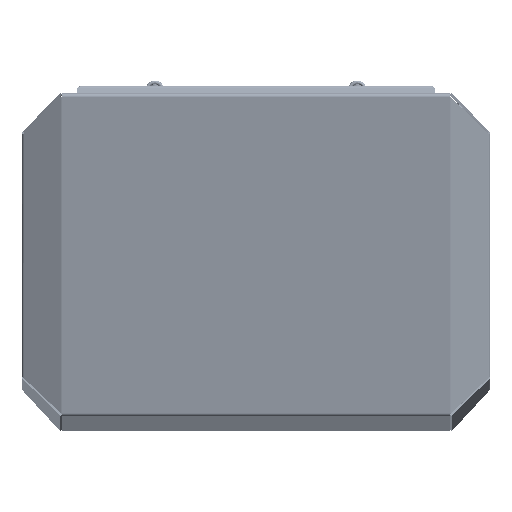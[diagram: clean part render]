
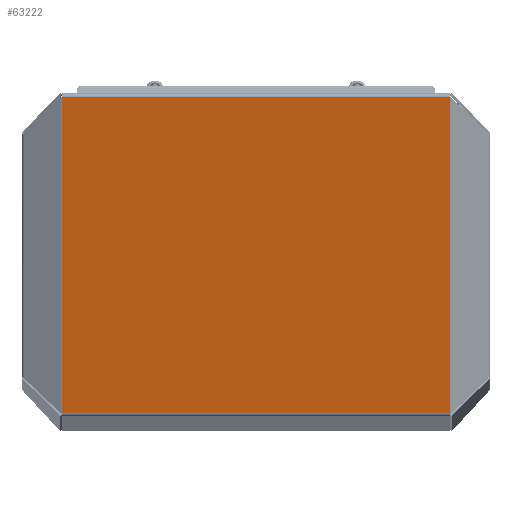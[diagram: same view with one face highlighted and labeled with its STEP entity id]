
A CAD part, top view. The second image highlights one B-rep face of the part: STEP entity #63222.
In plain terms, the highlighted planar face has unit normal (0, -0.194, 0.981) as drawn and (-0.194, 0, 0.981) by its records, which use the part's own axes.
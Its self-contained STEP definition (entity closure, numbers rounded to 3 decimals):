
#9411=ORIENTED_EDGE('',*,*,#26564,.F.);
#9412=ORIENTED_EDGE('',*,*,#26563,.F.);
#9413=ORIENTED_EDGE('',*,*,#26565,.T.);
#9414=ORIENTED_EDGE('',*,*,#26566,.T.);
#26563=EDGE_CURVE('',#35376,#35381,#41508,.T.);
#26564=EDGE_CURVE('',#35381,#35370,#41509,.F.);
#26565=EDGE_CURVE('',#35376,#35387,#41510,.F.);
#26566=EDGE_CURVE('',#35387,#35370,#41511,.F.);
#35370=VERTEX_POINT('',#103203);
#35376=VERTEX_POINT('',#103216);
#35381=VERTEX_POINT('',#103227);
#35387=VERTEX_POINT('',#103240);
#41508=LINE('',#103250,#47377);
#41509=LINE('',#103252,#47378);
#41510=LINE('',#103253,#47379);
#41511=LINE('',#103254,#47380);
#47377=VECTOR('',#84006,1000.);
#47378=VECTOR('',#84009,1000.);
#47379=VECTOR('',#84010,1000.);
#47380=VECTOR('',#84011,1000.);
#52696=EDGE_LOOP('',(#9411,#9412,#9413,#9414));
#56983=FACE_BOUND('',#52696,.T.);
#61015=PLANE('',#75220);
#63222=ADVANCED_FACE('',(#56983),#61015,.T.);
#75220=AXIS2_PLACEMENT_3D('',#103251,#84007,#84008);
#84006=DIRECTION('',(0.,-1.,0.));
#84007=DIRECTION('',(-0.194,0.,0.981));
#84008=DIRECTION('',(0.981,0.,0.194));
#84009=DIRECTION('',(0.981,0.,0.194));
#84010=DIRECTION('',(0.981,0.,0.194));
#84011=DIRECTION('',(0.,1.,0.));
#103203=CARTESIAN_POINT('',(-161.932,-206.,1098.965));
#103216=CARTESIAN_POINT('',(173.524,206.,1165.137));
#103227=CARTESIAN_POINT('',(173.524,-206.,1165.137));
#103240=CARTESIAN_POINT('',(-161.932,206.,1098.965));
#103250=CARTESIAN_POINT('',(173.524,206.,1165.137));
#103251=CARTESIAN_POINT('',(-162.971,206.,1098.76));
#103252=CARTESIAN_POINT('',(-162.971,-206.,1098.76));
#103253=CARTESIAN_POINT('',(-162.971,206.,1098.76));
#103254=CARTESIAN_POINT('',(-161.932,206.,1098.965));
